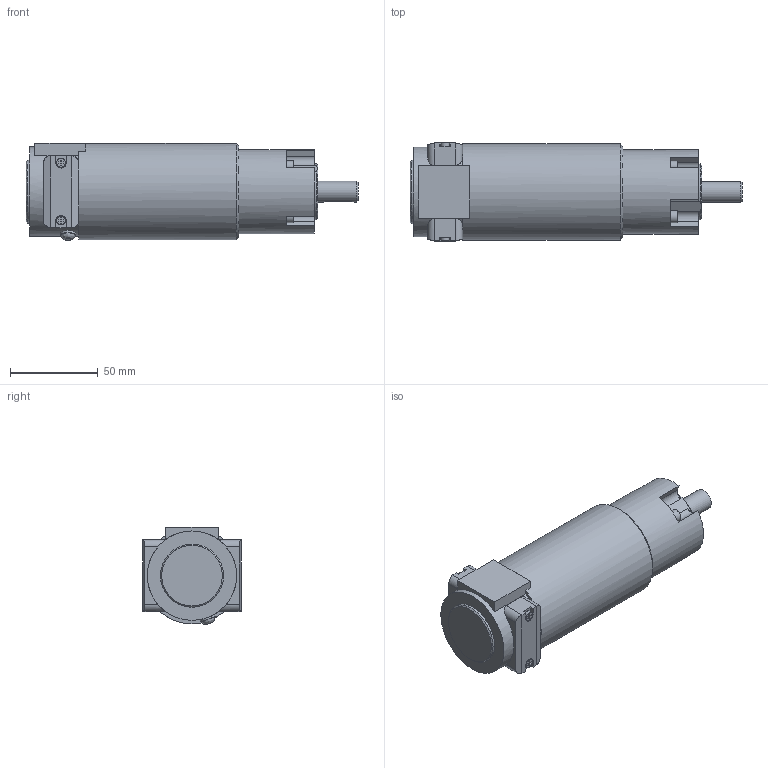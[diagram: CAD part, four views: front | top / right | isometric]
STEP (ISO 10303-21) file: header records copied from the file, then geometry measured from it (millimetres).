
FILE_DESCRIPTION( ( 'STEP AP203' ), '1' );
FILE_NAME( 'D:/export/getriebe_u_getriebemotoren/kleingetriebemotoren/pi-kgm_pe_m_gm gr-2_43045224Isometric_3.stp', '2018-12-11T13:36:39', ( '' ), ( '' ), ' ', 'PARTsolutions', ' ' );
FILE_SCHEMA( ( 'CONFIG_CONTROL_DESIGN' ) );
Length unit declared in the file: millimetre
Products named in the file (1): _pi-kgm_pe_m_gm gr-2_43045224
Bounding box: 189.5 x 56 x 55.38 mm (x, y, z)
Volume: 363638.5 mm3; surface area: 36550.2 mm2
Topology: 1 solids, 1 shells, 209 faces, 517 edges, 336 vertices
Faces by surface type: plane 159, cylinder 39, cone 10, bspline 1
Full cylindrical faces by diameter (mm): 4.134 x3, 5 x5, 7 x4, 9 x1, 12 x1, 26 x1, 36 x1, 48 x1, 51 x1, 55 x1
Entity records: 6169 total; most frequent: CARTESIAN_POINT 1287, DIRECTION 988, ORIENTED_EDGE 950, EDGE_CURVE 475, LINE 356, VECTOR 356, VERTEX_POINT 325, AXIS2_PLACEMENT_3D 316
